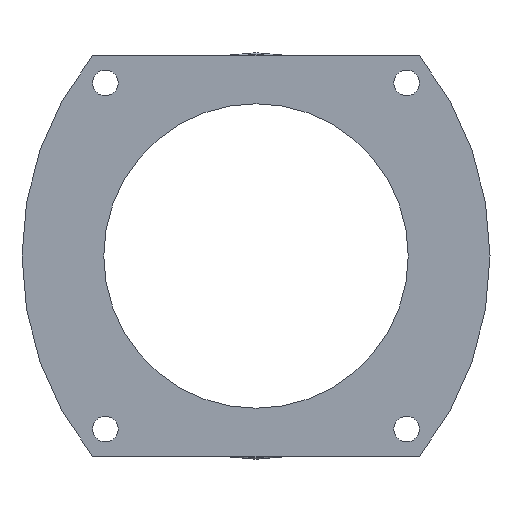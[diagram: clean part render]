
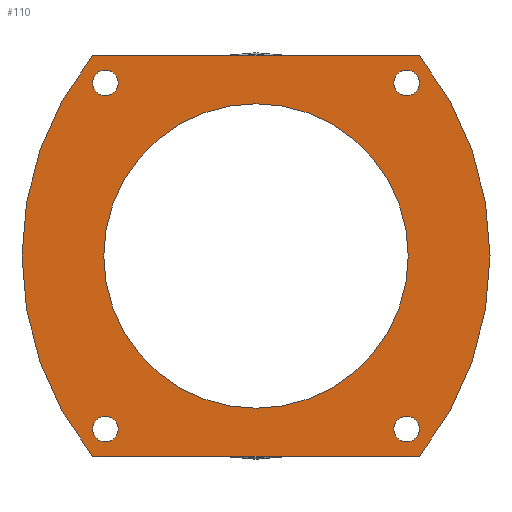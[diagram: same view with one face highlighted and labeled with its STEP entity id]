
A CAD part, left-side view. The second image highlights one B-rep face of the part: STEP entity #110.
In plain terms, the highlighted planar face has unit normal (-1, 0, 0).
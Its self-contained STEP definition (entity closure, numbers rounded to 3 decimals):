
#110 = ADVANCED_FACE( '', ( #262, #263, #264, #265, #266, #267 ), #268, .F. );
#262 = FACE_BOUND( '', #457, .T. );
#263 = FACE_BOUND( '', #458, .T. );
#264 = FACE_BOUND( '', #459, .T. );
#265 = FACE_BOUND( '', #460, .T. );
#266 = FACE_BOUND( '', #461, .T. );
#267 = FACE_OUTER_BOUND( '', #462, .T. );
#268 = PLANE( '', #463 );
#457 = EDGE_LOOP( '', ( #692 ) );
#458 = EDGE_LOOP( '', ( #693 ) );
#459 = EDGE_LOOP( '', ( #694 ) );
#460 = EDGE_LOOP( '', ( #695 ) );
#461 = EDGE_LOOP( '', ( #696 ) );
#462 = EDGE_LOOP( '', ( #697, #698, #699, #700 ) );
#463 = AXIS2_PLACEMENT_3D( '', #701, #702, #703 );
#692 = ORIENTED_EDGE( '', *, *, #886, .T. );
#693 = ORIENTED_EDGE( '', *, *, #920, .T. );
#694 = ORIENTED_EDGE( '', *, *, #921, .T. );
#695 = ORIENTED_EDGE( '', *, *, #922, .T. );
#696 = ORIENTED_EDGE( '', *, *, #865, .T. );
#697 = ORIENTED_EDGE( '', *, *, #923, .F. );
#698 = ORIENTED_EDGE( '', *, *, #924, .F. );
#699 = ORIENTED_EDGE( '', *, *, #916, .F. );
#700 = ORIENTED_EDGE( '', *, *, #925, .F. );
#701 = CARTESIAN_POINT( '', ( -64.7, 26.778, 0. ) );
#702 = DIRECTION( '', ( 1., 0., 0. ) );
#703 = DIRECTION( '', ( 0., 0., -1. ) );
#865 = EDGE_CURVE( '', #971, #971, #972, .T. );
#886 = EDGE_CURVE( '', #1008, #1008, #1009, .T. );
#916 = EDGE_CURVE( '', #1055, #1056, #1057, .T. );
#920 = EDGE_CURVE( '', #1061, #1061, #1062, .T. );
#921 = EDGE_CURVE( '', #1063, #1063, #1064, .T. );
#922 = EDGE_CURVE( '', #1065, #1065, #1066, .T. );
#923 = EDGE_CURVE( '', #1067, #1068, #1069, .T. );
#924 = EDGE_CURVE( '', #1056, #1067, #1070, .T. );
#925 = EDGE_CURVE( '', #1068, #1055, #1071, .T. );
#971 = VERTEX_POINT( '', #1127 );
#972 = CIRCLE( '', #1128, 4. );
#1008 = VERTEX_POINT( '', #1166 );
#1009 = CIRCLE( '', #1167, 47.5 );
#1055 = VERTEX_POINT( '', #1213 );
#1056 = VERTEX_POINT( '', #1214 );
#1057 = LINE( '', #1215, #1216 );
#1061 = VERTEX_POINT( '', #1222 );
#1062 = CIRCLE( '', #1223, 4. );
#1063 = VERTEX_POINT( '', #1224 );
#1064 = CIRCLE( '', #1225, 4. );
#1065 = VERTEX_POINT( '', #1226 );
#1066 = CIRCLE( '', #1227, 4. );
#1067 = VERTEX_POINT( '', #1228 );
#1068 = VERTEX_POINT( '', #1229 );
#1069 = LINE( '', #1230, #1231 );
#1070 = CIRCLE( '', #1232, 99.778 );
#1071 = CIRCLE( '', #1233, 99.778 );
#1127 = CARTESIAN_POINT( '', ( -64.7, 47., -58. ) );
#1128 = AXIS2_PLACEMENT_3D( '', #1292, #1293, #1294 );
#1166 = CARTESIAN_POINT( '', ( -64.7, 0., -47.5 ) );
#1167 = AXIS2_PLACEMENT_3D( '', #1336, #1337, #1338 );
#1213 = CARTESIAN_POINT( '', ( -64.7, -51., -62.5 ) );
#1214 = CARTESIAN_POINT( '', ( -64.7, 51., -62.5 ) );
#1215 = CARTESIAN_POINT( '', ( -64.7, -51., -62.5 ) );
#1216 = VECTOR( '', #1387, 1000. );
#1222 = CARTESIAN_POINT( '', ( -64.7, -47., 50. ) );
#1223 = AXIS2_PLACEMENT_3D( '', #1390, #1391, #1392 );
#1224 = CARTESIAN_POINT( '', ( -64.7, 47., 50. ) );
#1225 = AXIS2_PLACEMENT_3D( '', #1393, #1394, #1395 );
#1226 = CARTESIAN_POINT( '', ( -64.7, -47., -58. ) );
#1227 = AXIS2_PLACEMENT_3D( '', #1396, #1397, #1398 );
#1228 = CARTESIAN_POINT( '', ( -64.7, 51., 62.5 ) );
#1229 = CARTESIAN_POINT( '', ( -64.7, -51., 62.5 ) );
#1230 = CARTESIAN_POINT( '', ( -64.7, 51., 62.5 ) );
#1231 = VECTOR( '', #1399, 1000. );
#1232 = AXIS2_PLACEMENT_3D( '', #1400, #1401, #1402 );
#1233 = AXIS2_PLACEMENT_3D( '', #1403, #1404, #1405 );
#1292 = CARTESIAN_POINT( '', ( -64.7, 47., -54. ) );
#1293 = DIRECTION( '', ( 1., 0., 0. ) );
#1294 = DIRECTION( '', ( 0., 0., -1. ) );
#1336 = CARTESIAN_POINT( '', ( -64.7, 0., 0. ) );
#1337 = DIRECTION( '', ( 1., 0., 0. ) );
#1338 = DIRECTION( '', ( 0., 0., -1. ) );
#1387 = DIRECTION( '', ( 0., 1., 0. ) );
#1390 = CARTESIAN_POINT( '', ( -64.7, -47., 54. ) );
#1391 = DIRECTION( '', ( 1., 0., 0. ) );
#1392 = DIRECTION( '', ( 0., 0., -1. ) );
#1393 = CARTESIAN_POINT( '', ( -64.7, 47., 54. ) );
#1394 = DIRECTION( '', ( 1., 0., 0. ) );
#1395 = DIRECTION( '', ( 0., 0., -1. ) );
#1396 = CARTESIAN_POINT( '', ( -64.7, -47., -54. ) );
#1397 = DIRECTION( '', ( 1., 0., 0. ) );
#1398 = DIRECTION( '', ( 0., 0., -1. ) );
#1399 = DIRECTION( '', ( 0., -1., 0. ) );
#1400 = CARTESIAN_POINT( '', ( -64.7, -26.778, 0. ) );
#1401 = DIRECTION( '', ( 1., 0., 0. ) );
#1402 = DIRECTION( '', ( 0., 0., -1. ) );
#1403 = CARTESIAN_POINT( '', ( -64.7, 26.778, 0. ) );
#1404 = DIRECTION( '', ( 1., 0., 0. ) );
#1405 = DIRECTION( '', ( 0., 0., -1. ) );
